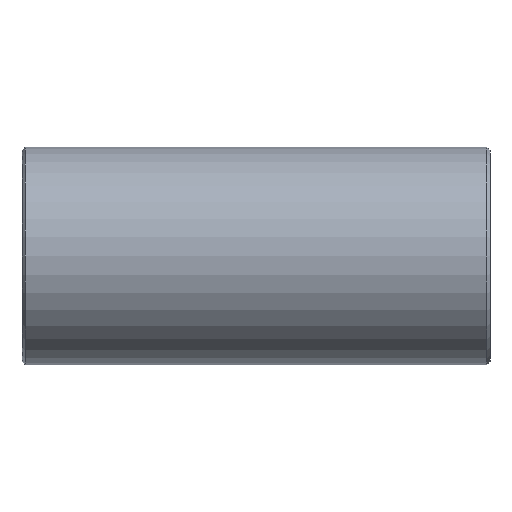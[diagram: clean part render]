
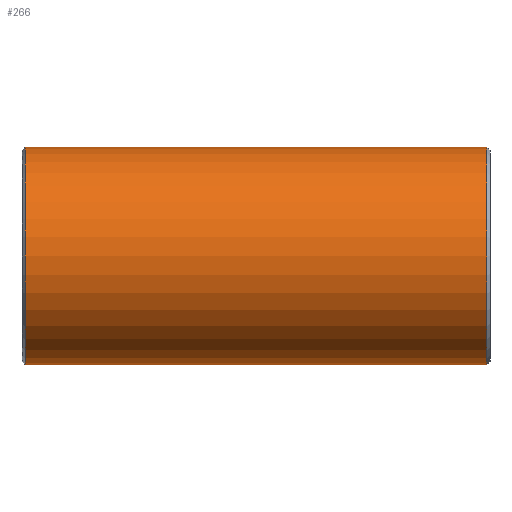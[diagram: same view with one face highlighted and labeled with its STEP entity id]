
A CAD part, front view. The second image highlights one B-rep face of the part: STEP entity #266.
In plain terms, the highlighted cylindrical face has radius 7.25 mm (diameter 14.5 mm), a full revolution.
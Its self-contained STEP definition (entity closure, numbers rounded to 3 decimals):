
#162=CARTESIAN_POINT('',(15.4,7.25,0.));
#163=VERTEX_POINT('',#162);
#164=CARTESIAN_POINT('',(15.4,0.0,0.0));
#165=DIRECTION('',(1.0,0.0,0.0));
#166=DIRECTION('',(0.0,-1.0,0.0));
#167=AXIS2_PLACEMENT_3D('',#164,#165,#166);
#168=CIRCLE('',#167,7.25);
#169=EDGE_CURVE('',#163,#163,#168,.T.);
#177=CARTESIAN_POINT('',(0.0,0.0,0.0));
#178=DIRECTION('',(1.0,0.0,0.0));
#179=DIRECTION('',(0.0,1.0,0.0));
#180=AXIS2_PLACEMENT_3D('',#177,#178,#179);
#181=CYLINDRICAL_SURFACE('',#180,7.25);
#182=CARTESIAN_POINT('',(-15.4,7.25,0.));
#183=VERTEX_POINT('',#182);
#184=CARTESIAN_POINT('',(-15.4,0.0,0.0));
#185=DIRECTION('',(-1.0,0.0,0.0));
#186=DIRECTION('',(0.0,-1.0,0.0));
#187=AXIS2_PLACEMENT_3D('',#184,#185,#186);
#188=CIRCLE('',#187,7.25);
#189=EDGE_CURVE('',#183,#183,#188,.T.);
#190=ORIENTED_EDGE('',*,*,#189,.F.);
#191=EDGE_LOOP('',(#190));
#192=FACE_OUTER_BOUND('',#191,.T.);
#193=CARTESIAN_POINT('',(0.,4.243,5.878));
#194=VERTEX_POINT('',#193);
#195=CARTESIAN_POINT('',(0.,4.243,5.878));
#196=CARTESIAN_POINT('',(0.,4.243,5.878));
#197=CARTESIAN_POINT('',(0.,4.243,5.878));
#198=CARTESIAN_POINT('',(0.,4.243,5.878));
#199=CARTESIAN_POINT('',(0.222,4.243,5.878));
#200=CARTESIAN_POINT('',(0.519,4.258,5.868));
#201=CARTESIAN_POINT('',(1.104,4.323,5.82));
#202=CARTESIAN_POINT('',(1.822,4.459,5.719));
#203=CARTESIAN_POINT('',(2.619,4.704,5.521));
#204=CARTESIAN_POINT('',(3.367,4.991,5.263));
#205=CARTESIAN_POINT('',(3.954,5.25,5.005));
#206=CARTESIAN_POINT('',(4.391,5.462,4.769));
#207=CARTESIAN_POINT('',(5.019,5.78,4.391));
#208=CARTESIAN_POINT('',(5.708,6.161,3.862));
#209=CARTESIAN_POINT('',(6.313,6.517,3.194));
#210=CARTESIAN_POINT('',(6.679,6.738,2.687));
#211=CARTESIAN_POINT('',(7.001,6.936,2.15));
#212=CARTESIAN_POINT('',(7.271,7.105,1.506));
#213=CARTESIAN_POINT('',(7.42,7.199,0.897));
#214=CARTESIAN_POINT('',(7.53,7.269,0.127));
#215=CARTESIAN_POINT('',(7.492,7.245,-0.62));
#216=CARTESIAN_POINT('',(7.29,7.117,-1.412));
#217=CARTESIAN_POINT('',(7.127,7.015,-1.849));
#218=CARTESIAN_POINT('',(6.855,6.846,-2.413));
#219=CARTESIAN_POINT('',(6.514,6.638,-2.942));
#220=CARTESIAN_POINT('',(6.11,6.398,-3.418));
#221=CARTESIAN_POINT('',(5.749,6.189,-3.783));
#222=CARTESIAN_POINT('',(5.419,6.003,-4.071));
#223=CARTESIAN_POINT('',(4.774,5.652,-4.558));
#224=CARTESIAN_POINT('',(4.101,5.311,-4.947));
#225=CARTESIAN_POINT('',(3.073,4.868,-5.381));
#226=CARTESIAN_POINT('',(2.211,4.56,-5.641));
#227=CARTESIAN_POINT('',(1.092,4.306,-5.834));
#228=CARTESIAN_POINT('',(0.25,4.23,-5.888));
#229=CARTESIAN_POINT('',(-0.543,4.256,-5.869));
#230=CARTESIAN_POINT('',(-1.03,4.313,-5.828));
#231=CARTESIAN_POINT('',(-1.65,4.429,-5.741));
#232=CARTESIAN_POINT('',(-2.247,4.584,-5.619));
#233=CARTESIAN_POINT('',(-2.847,4.79,-5.444));
#234=CARTESIAN_POINT('',(-3.507,5.049,-5.208));
#235=CARTESIAN_POINT('',(-4.164,5.347,-4.907));
#236=CARTESIAN_POINT('',(-4.728,5.632,-4.57));
#237=CARTESIAN_POINT('',(-5.29,5.93,-4.182));
#238=CARTESIAN_POINT('',(-5.842,6.24,-3.719));
#239=CARTESIAN_POINT('',(-6.398,6.568,-3.091));
#240=CARTESIAN_POINT('',(-6.758,6.786,-2.567));
#241=CARTESIAN_POINT('',(-7.059,6.972,-2.016));
#242=CARTESIAN_POINT('',(-7.301,7.124,-1.41));
#243=CARTESIAN_POINT('',(-7.499,7.249,-0.551));
#244=CARTESIAN_POINT('',(-7.524,7.265,0.39));
#245=CARTESIAN_POINT('',(-7.336,7.146,1.309));
#246=CARTESIAN_POINT('',(-7.109,7.004,1.892));
#247=CARTESIAN_POINT('',(-6.902,6.875,2.308));
#248=CARTESIAN_POINT('',(-6.548,6.658,2.916));
#249=CARTESIAN_POINT('',(-6.064,6.368,3.493));
#250=CARTESIAN_POINT('',(-5.361,5.97,4.128));
#251=CARTESIAN_POINT('',(-4.774,5.651,4.557));
#252=CARTESIAN_POINT('',(-4.013,5.276,4.979));
#253=CARTESIAN_POINT('',(-3.085,4.866,5.387));
#254=CARTESIAN_POINT('',(-2.033,4.499,5.69));
#255=CARTESIAN_POINT('',(-0.892,4.283,5.85));
#256=CARTESIAN_POINT('',(-0.297,4.243,5.878));
#257=CARTESIAN_POINT('',(0.,4.243,5.878));
#258=B_SPLINE_CURVE_WITH_KNOTS('',3,(#195,#196,#197,#198,#199,#200,#201,#202,#203,#204,#205,#206,#207,#208,#209,#210,#211,#212,#213,#214,#215,#216,#217,#218,#219,#220,#221,#222,#223,#224,#225,#226,#227,#228,#229,#230,#231,#232,#233,#234,#235,#236,#237,#238,#239,#240,#241,#242,#243,#244,#245,#246,#247,#248,#249,#250,#251,#252,#253,#254,#255,#256,#257),.UNSPECIFIED.,.T.,.U.,(4,3,1,1,1,1,1,1,1,1,1,1,1,1,1,1,1,1,1,1,1,1,1,1,1,1,1,1,1,1,1,1,1,1,1,1,1,1,1,1,1,1,1,1,1,1,1,1,1,1,1,1,1,1,1,1,1,1,4),(-3.515,-3.515,-3.468,-3.452,-3.39,-3.311,-3.264,-3.201,-3.154,-3.139,-3.013,-2.929,-2.898,-2.846,-2.762,-2.71,-2.678,-2.553,-2.511,-2.459,-2.427,-2.343,-2.291,-2.26,-2.207,-2.176,-2.051,-2.009,-1.904,-1.841,-1.758,-1.726,-1.674,-1.653,-1.59,-1.538,-1.506,-1.423,-1.36,-1.339,-1.245,-1.172,-1.116,-1.074,-1.004,-0.942,-0.837,-0.753,-0.69,-0.67,-0.628,-0.502,-0.471,-0.377,-0.314,-0.251,-0.126,-0.063,0.),.UNSPECIFIED.);
#259=EDGE_CURVE('',#194,#194,#258,.T.);
#260=ORIENTED_EDGE('',*,*,#259,.F.);
#261=EDGE_LOOP('',(#260));
#262=FACE_BOUND('',#261,.T.);
#263=ORIENTED_EDGE('',*,*,#169,.F.);
#264=EDGE_LOOP('',(#263));
#265=FACE_BOUND('',#264,.T.);
#266=ADVANCED_FACE('',(#192,#262,#265),#181,.T.);
